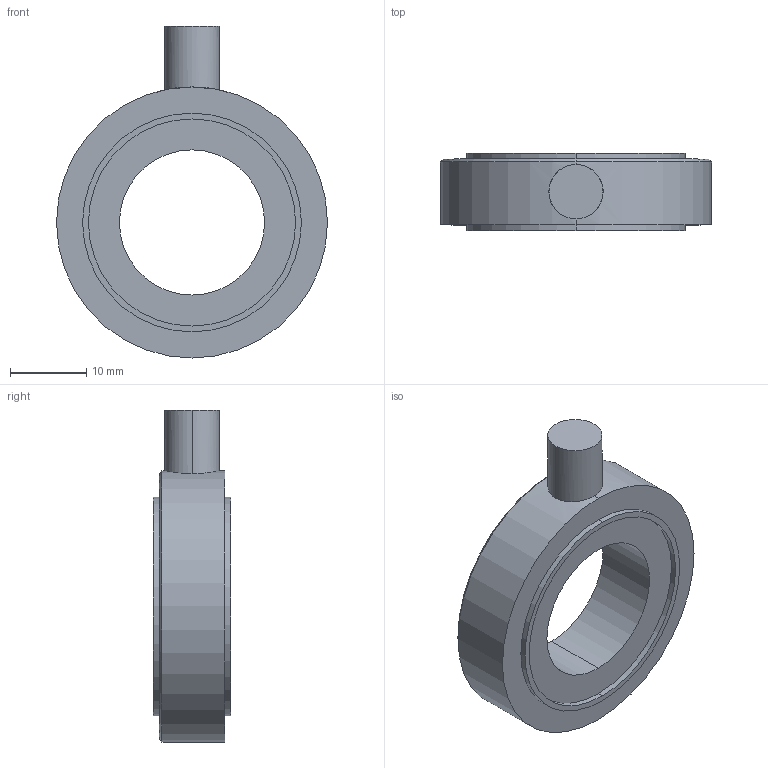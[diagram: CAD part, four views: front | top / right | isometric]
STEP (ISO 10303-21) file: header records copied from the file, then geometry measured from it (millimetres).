
FILE_DESCRIPTION (( 'STEP AP214' ), '1' );
FILE_NAME ('FINAL ASBY SS1446-2K.STEP', '2024-08-12T14:48:05', ( '' ), ( '' ), 'SwSTEP 2.0', 'SolidWorks 2008', '' );
FILE_SCHEMA (( 'AUTOMOTIVE_DESIGN' ));
Length unit declared in the file: inch
Products named in the file (1): FINAL ASBY SS1446-2K
Bounding box: 35.56 x 10.16 x 43.56 mm (x, y, z)
Volume: 6530.6 mm3; surface area: 3322.8 mm2
Topology: 1 solids, 1 shells, 23 faces, 49 edges, 32 vertices
Faces by surface type: cylinder 14, plane 7, cone 2
Entity records: 724 total; most frequent: CARTESIAN_POINT 171, DIRECTION 121, ORIENTED_EDGE 98, AXIS2_PLACEMENT_3D 52, EDGE_CURVE 49, VERTEX_POINT 32, EDGE_LOOP 29, CIRCLE 28
